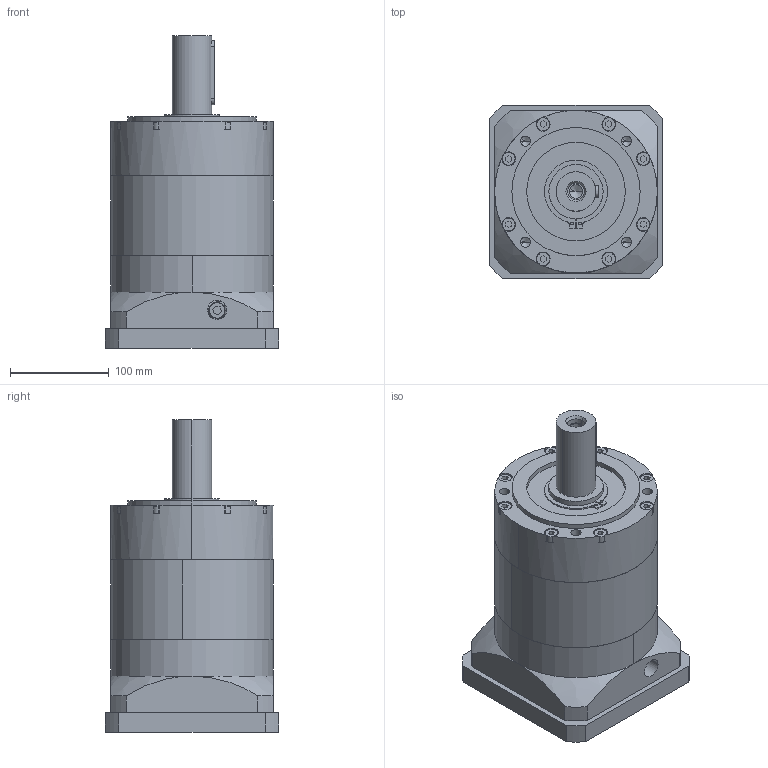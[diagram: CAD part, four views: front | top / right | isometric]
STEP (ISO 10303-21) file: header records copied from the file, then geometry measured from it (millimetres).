
FILE_DESCRIPTION (( 'STEP AP214' ), '1' );
FILE_NAME ('PRL160-L2.STEP', '2020-09-16T05:35:23', ( '微软用户' ), ( '微软中国' ), 'SwSTEP 2.0', 'SolidWorks 2014', '' );
FILE_SCHEMA (( 'AUTOMOTIVE_DESIGN' ));
Length unit declared in the file: millimetre
Products named in the file (16): PLE160-蟀諉啣_2; PLE160-帣釱; GB／T276-94深沟球轴承6011-2RZ; 邧埴瑩 12x8x65; PLE160 奻屳唳; PLE160 內齿圈_二级内齿圈; GB／T70．1-2000内六角圆柱头螺钉M10×35; PRL160-L2
Assembly tree (8 placements, depth 2):
  PLE160-蟀諉啣_2
  PLE160-帣釱
  GB／T276-94深沟球轴承6011-2RZ
  邧埴瑩 12x8x65
  PLE160 奻屳唳
Bounding box: 176 x 176 x 317 mm (x, y, z)
Volume: 4761743.7 mm3; surface area: 455680.1 mm2
Topology: 8 solids, 16 shells, 602 faces, 1591 edges, 1028 vertices
Faces by surface type: cylinder 220, plane 214, bspline 140, cone 28
Entity records: 31088 total; most frequent: CARTESIAN_POINT 10513, ORIENTED_EDGE 3030, DIRECTION 2688, EDGE_CURVE 1515, AXIS2_PLACEMENT_3D 1091, VERTEX_POINT 994, EDGE_LOOP 693, CIRCLE 633
